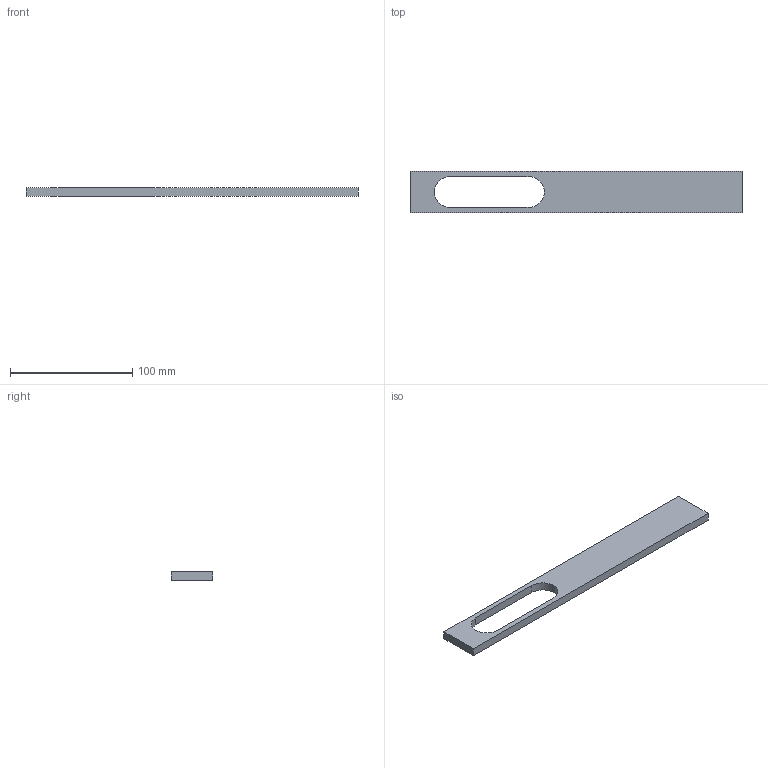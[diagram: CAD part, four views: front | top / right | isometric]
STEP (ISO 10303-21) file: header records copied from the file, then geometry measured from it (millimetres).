
FILE_DESCRIPTION( ( 'STEP AP214' ), '1' );
FILE_NAME( 'C:/Users/swati/Desktop/10-03-2016/14-03-2016/9112667/9112667.stp', ' ', ( ' ' ), ( ' ' ), 'PSStep 15.0.47', 'PARTsolutions', ' ' );
FILE_SCHEMA( ( 'AUTOMOTIVE_DESIGN { 1 0 10303 214 1 1 1 1 }' ) );
Length unit declared in the file: millimetre
Products named in the file (2): 95 ; _
Assembly tree (1 placements, depth 2):
  95 
    _
Bounding box: 272 x 34 x 7 mm (x, y, z)
Volume: 49623.3 mm3; surface area: 20309.6 mm2
Topology: 1 solids, 1 shells, 16 faces, 33 edges, 22 vertices
Faces by surface type: plane 11, cylinder 5
Full cylindrical faces by diameter (mm): 4 x3
Entity records: 582 total; most frequent: DIRECTION 76, CARTESIAN_POINT 70, ORIENTED_EDGE 60, EDGE_CURVE 30, AXIS2_PLACEMENT_3D 28, EDGE_LOOP 24, VERTEX_POINT 22, LINE 20
